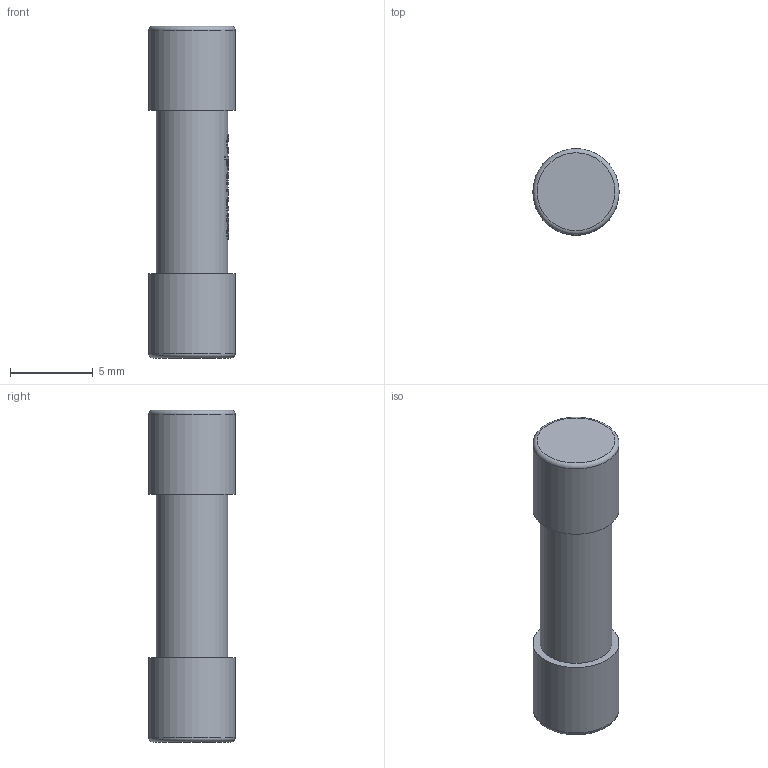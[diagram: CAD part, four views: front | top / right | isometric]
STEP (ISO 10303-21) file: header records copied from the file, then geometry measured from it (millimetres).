
FILE_DESCRIPTION(/* description */ (''),/* implementation_level */ '2;1');
FILE_NAME(/* name */ 'C:\Users\Hani\Desktop\work\FSC\FSC.stp',/* time_stamp */ '2021-08-22T16:51:18-07:00',/* author */ ('Hani'),/* organization */ (''),/* preprocessor_version */ 'ST-DEVELOPER v17',/* originating_system */ 'Autodesk Inventor 2019',/* authorisation */ '');
FILE_SCHEMA (('AUTOMOTIVE_DESIGN { 1 0 10303 214 3 1 1 }'));
Length unit declared in the file: inch
Products named in the file (1): FSC
Bounding box: 5.2 x 5.2 x 20 mm (x, y, z)
Volume: 354.3 mm3; surface area: 510.8 mm2
Topology: 2 solids, 2 shells, 149 faces, 415 edges, 276 vertices
Faces by surface type: bspline 67, plane 63, cylinder 17, torus 2
Full cylindrical faces by diameter (mm): 4.318 x1, 4.438 x1, 5.2 x2
Entity records: 6227 total; most frequent: CARTESIAN_POINT 2724, ORIENTED_EDGE 830, DIRECTION 525, EDGE_CURVE 415, VERTEX_POINT 276, LINE 189, VECTOR 189, AXIS2_PLACEMENT_3D 168
